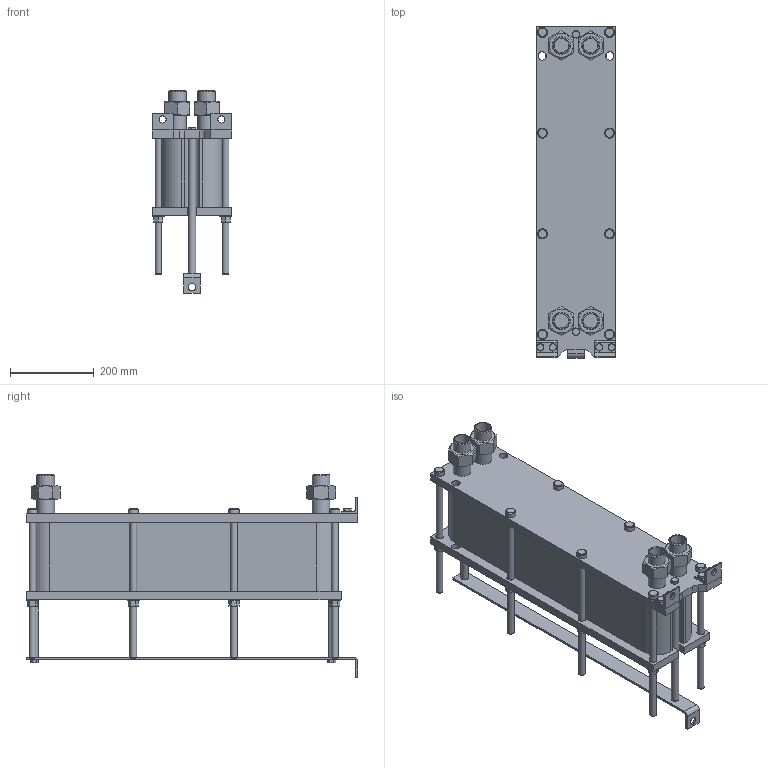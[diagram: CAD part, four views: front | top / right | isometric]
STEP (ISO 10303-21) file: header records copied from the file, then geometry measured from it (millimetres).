
FILE_DESCRIPTION(/* description */ (''),/* implementation_level */ '2;1');
FILE_NAME(/* name */ 'C:\Users\zhuro\Desktop\ENCO\TO\ЭН-008\ЭН-0,5-008-53-1.stp',/* time_stamp */ '2022-06-06T10:49:40+03:00',/* author */ ('zhuro'),/* organization */ (''),/* preprocessor_version */ 'ST-DEVELOPER v18.1',/* originating_system */ 'Autodesk Inventor 2022',/* authorisation */ '');
FILE_SCHEMA (('AUTOMOTIVE_DESIGN { 1 0 10303 214 3 1 1 }'));
Length unit declared in the file: millimetre
Products named in the file (1): ЭН-0,5-008-53-1
Bounding box: 190 x 790 x 483.4 mm (x, y, z)
Volume: 23520971.7 mm3; surface area: 1623959.8 mm2
Topology: 40 solids, 40 shells, 428 faces, 924 edges, 606 vertices
Faces by surface type: plane 273, cylinder 109, cone 40, torus 6
Full cylindrical faces by diameter (mm): 12 x6, 14 x2, 16 x20, 17 x8, 18 x19, 20 x5, 24 x8, 28 x8, 34.3 x8, 42.3 x8
Entity records: 15843 total; most frequent: CARTESIAN_POINT 5991, DIRECTION 1984, ORIENTED_EDGE 1848, EDGE_CURVE 924, AXIS2_PLACEMENT_3D 715, VERTEX_POINT 606, LINE 554, VECTOR 554
